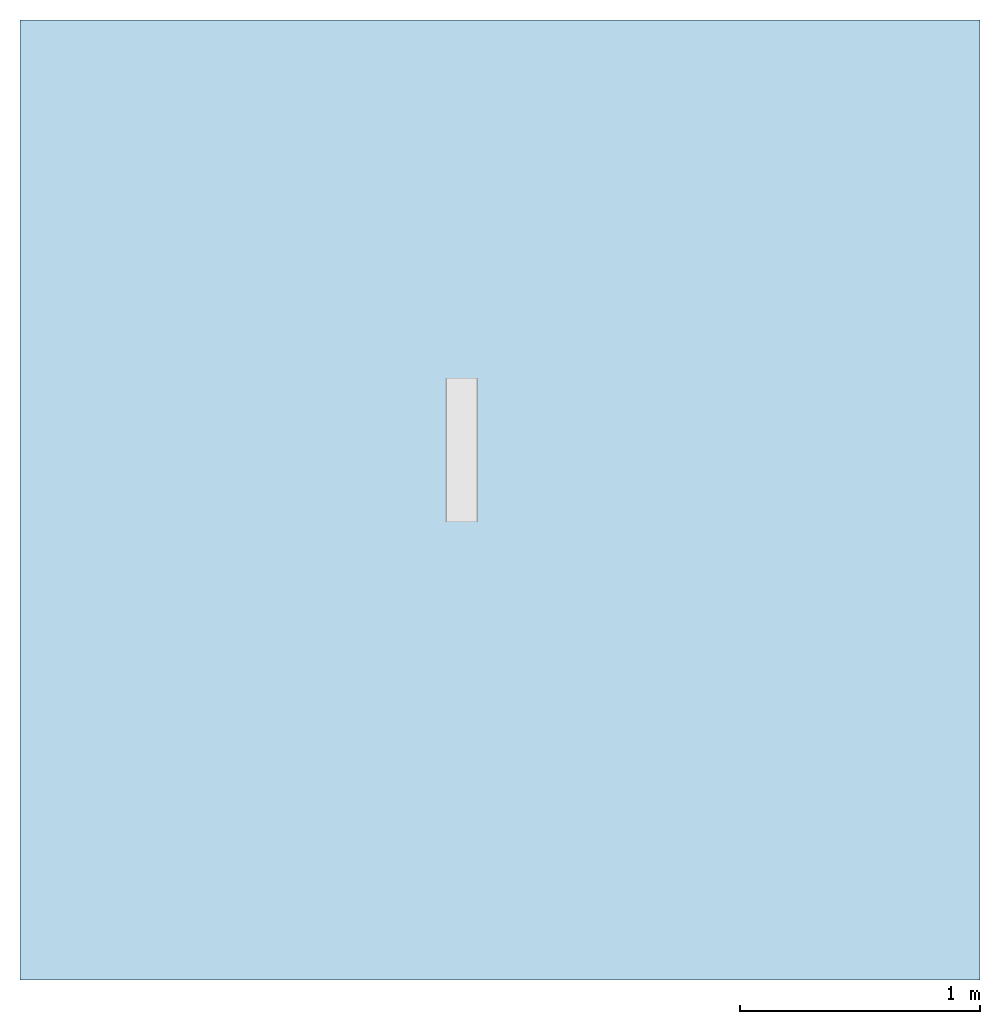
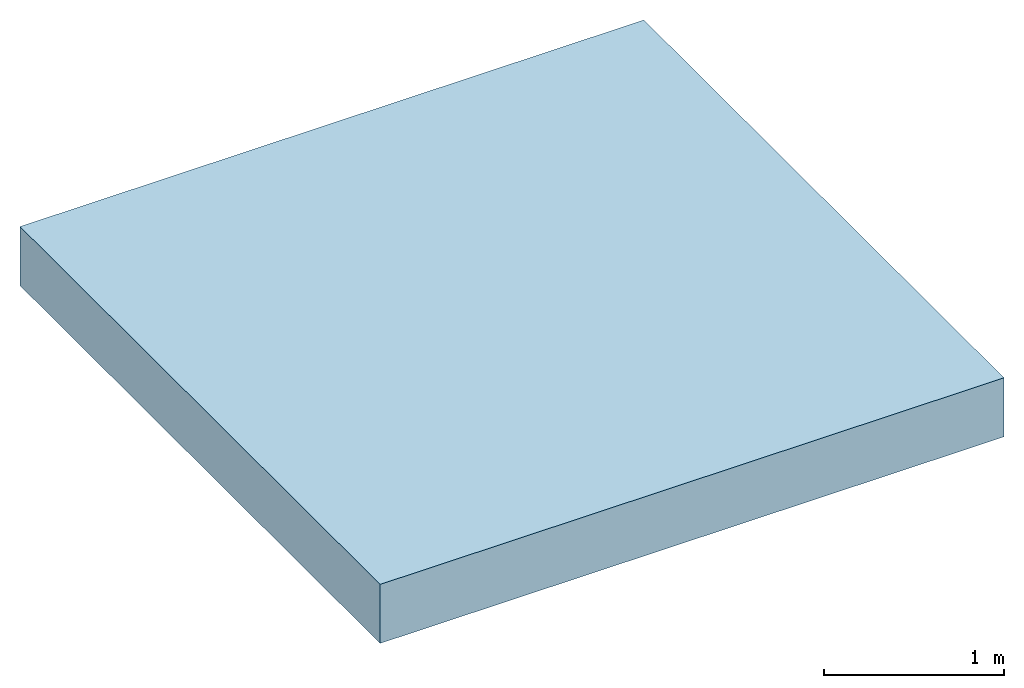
# One storey, incomplete: 1 slab, 2 openings.
"""IFC2X3 building model written with IfcOpenShell, lengths in millimetres."""

from ifc_helpers import new_model, entity, si_unit, converted_unit, derived_unit, direction, frame, frame_2d, origin, place, context, subcontext, project, spatial, polyline, rectangle, outline, extrude, faceted_brep, material, layer, layer_set, layer_usage, element, save


model = new_model("IFC2X3")

# Units and contexts
model_context = context("Model", 3, precision=1e-05, world=origin(), true_north=direction((2.0, 6.12303176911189e-17, 1.0)))
context_of_model = context(None, 3, precision=1e-05, world=origin(), true_north=direction((2.0, 6.12303176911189e-17, 1.0)))
body_context = subcontext(model_context, "Body", "Model", "MODEL_VIEW")
ifc_project = project(units=[si_unit("LENGTHUNIT", "METRE", prefix="MILLI"), si_unit("AREAUNIT", "SQUARE_METRE"), si_unit("VOLUMEUNIT", "CUBIC_METRE"), converted_unit("PLANEANGLEUNIT", "DEGREE", entity("IfcRatioMeasure", 0.0174532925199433), si_unit("PLANEANGLEUNIT", "RADIAN"), dimensions=[0, 0, 0, 0, 0, 0, 0]), si_unit("MASSUNIT", "GRAM", prefix="KILO"), si_unit("TIMEUNIT", "SECOND"), si_unit("THERMODYNAMICTEMPERATUREUNIT", "KELVIN"), derived_unit("THERMALTRANSMITTANCEUNIT", [(si_unit("MASSUNIT", "GRAM", prefix="KILO"), 1), (si_unit("THERMODYNAMICTEMPERATUREUNIT", "KELVIN"), -1), (si_unit("TIMEUNIT", "SECOND"), -3)]), derived_unit("VOLUMETRICFLOWRATEUNIT", [(si_unit("LENGTHUNIT", "METRE"), 3), (si_unit("TIMEUNIT", "SECOND"), -1)]), si_unit("POWERUNIT", "WATT")], contexts=[model_context, context_of_model])

# Site, building, storey
site_placement = place(None, origin())
site = spatial("IfcSite", under=ifc_project, at=site_placement, Name="Default", CompositionType="ELEMENT")
building_placement = place(site_placement, origin())
building = spatial("IfcBuilding", under=site, at=building_placement, CompositionType="ELEMENT")
storey_placement = place(building_placement, origin())
storey = spatial("IfcBuildingStorey", under=building, at=storey_placement, Name="Level 1", CompositionType="ELEMENT", Elevation=0.0)

# Slab, openings
ifc_material = material(Name="Concrete, Broom Finish")
ifc_layer = layer(ifc_material, 400.0)
ifc_layer_set = layer_set([ifc_layer], Name="Floor:Generic Floor - 400mm")
ifc_layer_usage = layer_usage(ifc_layer_set, "AXIS3", "POSITIVE", 0.0)
slab_placement = place(storey_placement, origin())
slab = element("IfcSlab", 1, at=slab_placement, inside=storey, material=ifc_layer_usage, Name="Floor:Generic Floor - 400mm", ObjectType="Floor:Generic Floor - 400mm", PredefinedType="FLOOR", context=body_context, shape_type="SweptSolid", body=[
    extrude(rectangle(XDim=4000.0, YDim=4000.0, at=frame_2d((0.0, 0.0), x_axis=(0.0, -1.0))), frame((-42.176138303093, 2.05004766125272, 0.0), z_axis=(0.0, 0.0, -1.0), x_axis=(-1.0, 0.0, 0.0)), (0.0, 0.0, 1.0), 400.0),
])
opening_1_placement = place(slab_placement, frame((-201.687791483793, -390.149030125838, -5053.0)))
element("IfcOpeningElement", 2, at=opening_1_placement, cuts=slab, ObjectType="Recess", context=body_context, shape_type="Brep", body=[
    faceted_brep([(302.223121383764, 175.255521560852, 32.0), (300.076475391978, 298.23678806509, 32.0), (134.144907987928, 172.321705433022, 32.0), (295.712509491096, 298.160614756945, 32.0), (130.0, 0.0, 32.0), (130.0, 168.103816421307, 32.0), (7.0, 0.0, 32.0), (7.0, 168.103816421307, 32.0), (7.0, 163.739186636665, 32.0), (131.985921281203, 296.009971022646, 32.2928932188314), (131.980809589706, 296.302819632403, 33.0), (131.998261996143, 295.302971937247, 32.0), (134.144907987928, 172.321705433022, 53.0), (131.980809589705, 296.302819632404, 53.0), (302.223121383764, 175.255521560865, 0.0), (130.0, 172.249355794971, 0.0), (130.0, 172.249355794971, 53.0), (299.954308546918, 305.235721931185, 0.0), (0.0, 300.0, 0.0), (0.0, 0.0, 0.0), (130.0, 0.0, 0.0), (300.059022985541, 299.236635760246, 53.0), (299.954308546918, 305.235721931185, 53.0), (6.0, 168.103816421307, 53.0), (0.0, 300.0, 53.0), (0.0, 0.0, 53.0), (130.0, 168.103816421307, 53.0), (6.0, 0.0, 53.0), (6.0, 168.103816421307, 33.0), (6.29289321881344, 168.103816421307, 32.2928932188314), (300.064134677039, 298.943787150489, 32.2928932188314), (300.059022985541, 299.236635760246, 33.0), (140.708741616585, 296.455166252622, 33.0), (6.29289321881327, 0.0, 32.2928932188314), (6.0, 0.0, 33.0), (6.0, 8.72926165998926, 33.0), (272.002592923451, 298.455351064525, 32.2942756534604), (273.814254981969, 297.778379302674, 32.0), (278.570212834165, 298.608297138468, 32.3349384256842), (254.007759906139, 298.108651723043, 32.2630003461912), (259.896197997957, 298.278651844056, 32.3308195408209), (257.072565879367, 298.486304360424, 33.0), (139.318735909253, 296.137965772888, 32.2928932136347), (237.04714554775, 297.136607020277, 32.0), (239.661490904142, 297.8628028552, 32.2672134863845), (233.480216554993, 297.72760765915, 32.2427819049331), (286.608060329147, 298.675556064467, 32.2610474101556), (284.319142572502, 297.96174279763, 32.0), (145.077818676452, 296.23849093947, 32.2928932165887), (149.436673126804, 296.607512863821, 33.0), (184.522704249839, 296.219789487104, 32.0), (188.717372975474, 297.006176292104, 32.2988969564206), (183.037761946, 296.891114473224, 32.2830635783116), (155.595048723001, 295.714855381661, 32.0), (158.653902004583, 296.433410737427, 32.2532114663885), (150.836901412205, 296.339016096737, 32.292893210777), (202.894368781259, 297.221785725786, 32.2679155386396), (205.532480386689, 296.5865164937, 32.0), (208.146067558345, 297.235275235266, 32.2022940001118), (189.775148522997, 296.311471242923, 32.0), (194.399132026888, 297.105407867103, 32.2989540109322), (149.454126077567, 295.607665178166, 32.0), (223.302679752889, 297.599503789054, 32.2885139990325), (220.22703077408, 297.843163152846, 33.0), (213.399313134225, 297.401935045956, 32.2649373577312), (287.777178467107, 299.022255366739, 33.0), (292.629707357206, 298.814018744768, 32.2928932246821), (175.620467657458, 297.064552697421, 33.0), (166.89253614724, 296.912206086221, 33.0), (171.260361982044, 296.767235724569, 32.3727558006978), (250.93164336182, 298.379114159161, 33.0), (248.078971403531, 298.070514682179, 32.3287527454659), (279.066698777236, 297.870061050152, 32.0), (275.495333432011, 298.807874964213, 33.0), (238.649798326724, 298.164733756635, 33.0), (295.695057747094, 299.160462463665, 33.0), (140.726194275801, 295.455318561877, 32.0), (289.571586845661, 298.05342455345, 32.0), (281.636255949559, 298.915065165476, 33.0), (161.735970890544, 295.822045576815, 32.0), (164.835769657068, 296.558810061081, 32.2691642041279), (184.348399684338, 297.216899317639, 33.0), (193.076331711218, 297.369245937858, 33.0), (268.56181070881, 297.686697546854, 32.0), (265.811608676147, 298.342461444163, 32.2894648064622), (269.354410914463, 298.70068476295, 33.0), (258.056922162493, 297.503334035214, 32.0), (263.309366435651, 297.595015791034, 32.0), (247.552033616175, 297.319970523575, 32.0), (252.804477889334, 297.411652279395, 32.0), (263.213488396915, 298.593494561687, 33.0), (242.299589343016, 297.228288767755, 32.0), (244.790720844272, 298.271923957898, 33.0), (232.508875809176, 298.057543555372, 33.0), (226.367953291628, 297.950353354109, 33.0), (228.441030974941, 297.769059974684, 32.3774173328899), (231.794701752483, 297.044925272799, 32.0), (226.542257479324, 296.953243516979, 32.0), (158.164604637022, 296.759859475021, 33.0), (167.876893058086, 295.929235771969, 32.0), (177.362507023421, 296.764390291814, 32.2571703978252), (174.017815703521, 296.036425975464, 32.0), (179.27025997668, 296.128107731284, 32.0), (207.945185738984, 297.62878275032, 33.0), (201.804263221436, 297.521592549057, 33.0), (195.027592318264, 296.403152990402, 32.0), (200.28003611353, 296.49483473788, 32.0), (214.086108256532, 297.735972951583, 33.0), (210.784924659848, 296.678198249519, 32.0), (216.037368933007, 296.769880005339, 32.0), (221.289813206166, 296.861561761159, 32.0), (6.29151349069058, 140.038024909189, 32.2942756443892), (7.0, 141.837591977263, 32.0), (6.25321148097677, 146.607313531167, 32.3349384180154), (6.3241068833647, 122.039881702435, 32.2630003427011), (6.25690008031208, 127.930390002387, 32.3308195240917), (6.0, 125.110810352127, 33.0), (6.29289321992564, 7.33393164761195, 32.2928932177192), (7.0, 105.064883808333, 32.0), (6.31954136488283, 107.691507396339, 32.2672135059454), (6.34683785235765, 101.50881504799, 32.2427819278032), (6.32624258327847, 154.645110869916, 32.2610474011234), (7.0, 152.34408268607, 32.0), (6.29289321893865, 13.0938916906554, 32.2928932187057), (6.0, 17.4585233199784, 33.0), (7.0, 52.5324419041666, 32.0), (6.28693999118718, 56.7401973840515, 32.2988969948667), (6.30286143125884, 51.0594432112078, 32.283063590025), (7.0, 23.600380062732, 32.0), (6.33493842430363, 26.6713092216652, 32.2532114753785), (6.29289322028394, 18.8538517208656, 32.2928932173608), (6.31878609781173, 70.9187975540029, 32.2679155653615), (7.0, 73.5454186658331, 32.0), (6.39695342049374, 76.1699319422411, 32.2022940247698), (7.0, 57.7856849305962, 32.0), (6.28688391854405, 62.4228229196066, 32.2989540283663), (7.0, 17.4585214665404, 32.0), (6.29729972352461, 91.3305919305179, 32.2885140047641), (6.0, 88.2596644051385, 33.0), (6.32200078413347, 81.4252860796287, 32.2649373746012), (6.0, 155.820101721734, 33.0), (6.29289322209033, 160.668256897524, 32.2928932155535), (6.0, 43.6463046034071, 33.0), (6.0, 34.9170447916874, 33.0), (6.22117733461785, 39.2816751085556, 32.3727558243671), (6.0, 118.968952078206, 33.0), (6.25876647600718, 116.111330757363, 32.3287527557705), (7.0, 147.090837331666, 32.0), (6.0, 143.536385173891, 33.0), (6.0, 106.685235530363, 33.0), (6.0, 163.739185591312, 33.0), (7.0, 8.72925956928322, 32.0), (7.0, 157.597328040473, 32.0), (6.0, 149.678243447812, 33.0), (7.0, 29.7422363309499, 32.0), (6.31744666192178, 32.8544238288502, 32.2691642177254), (6.0, 52.3755662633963, 33.0), (6.0, 61.1048279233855, 33.0), (7.0, 136.584348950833, 32.0), (6.29633832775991, 133.846013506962, 32.2894648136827), (6.0, 137.39452689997, 33.0), (7.0, 126.07786057, 32.0), (7.0, 131.331105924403, 32.0), (7.0, 115.571372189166, 32.0), (7.0, 120.824615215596, 32.0), (6.0, 131.252668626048, 33.0), (7.0, 110.318129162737, 32.0), (6.0, 112.827093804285, 33.0), (6.0, 100.543377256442, 33.0), (6.0, 94.4015208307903, 33.0), (6.21744596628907, 96.471120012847, 32.3774173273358), (7.0, 99.8116384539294, 32.0), (7.0, 94.5583954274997, 32.0), (6.0, 26.1877849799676, 33.0), (7.0, 35.8840949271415, 32.0), (6.3305194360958, 45.3828409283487, 32.2571704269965), (7.0, 42.0259535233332, 32.0), (7.0, 47.2791988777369, 32.0), (6.0, 75.9759478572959, 33.0), (6.0, 69.8340895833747, 33.0), (7.0, 63.0389302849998, 32.0), (7.0, 68.2921756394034, 32.0), (6.0, 82.1178061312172, 33.0), (7.0, 78.7986616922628, 32.0), (7.0, 84.0519070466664, 32.0), (7.0, 89.30515240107, 32.0)], [[[0, 1, 2]], [[2, 1, 3]], [[4, 5, 6]], [[5, 7, 8]], [[9, 10, 11]], [[2, 11, 12]], [[10, 13, 11]], [[12, 11, 13]], [[14, 0, 2]], [[14, 2, 15]], [[16, 15, 2]], [[16, 2, 12]], [[17, 14, 15]], [[17, 15, 18]], [[19, 18, 15]], [[19, 15, 20]], [[21, 22, 13]], [[12, 13, 16]], [[16, 13, 23]], [[22, 24, 13]], [[23, 24, 25]], [[23, 26, 16]], [[27, 23, 25]], [[23, 13, 24]], [[7, 28, 29]], [[26, 7, 5]], [[7, 23, 28]], [[23, 7, 26]], [[5, 15, 16]], [[5, 16, 26]], [[5, 4, 20]], [[5, 20, 15]], [[1, 0, 14]], [[30, 1, 17]], [[14, 17, 1]], [[17, 31, 30]], [[31, 22, 21]], [[17, 22, 31]], [[21, 10, 32]], [[13, 10, 21]], [[22, 17, 24]], [[18, 24, 17]], [[20, 4, 6]], [[19, 6, 33]], [[6, 19, 20]], [[33, 34, 19]], [[27, 25, 34]], [[34, 25, 19]], [[28, 23, 27]], [[27, 34, 35]], [[24, 18, 19]], [[19, 25, 24]], [[36, 37, 38]], [[39, 40, 41]], [[42, 32, 10]], [[43, 44, 45]], [[46, 38, 47]], [[32, 48, 49]], [[50, 51, 52]], [[53, 54, 55]], [[56, 57, 58]], [[51, 59, 60]], [[55, 48, 61]], [[42, 48, 32]], [[62, 63, 64]], [[65, 46, 66]], [[67, 68, 69]], [[39, 70, 71]], [[72, 38, 37]], [[38, 73, 36]], [[74, 45, 44]], [[3, 1, 30]], [[30, 31, 75]], [[30, 66, 3]], [[76, 61, 48]], [[9, 11, 42]], [[66, 77, 3]], [[46, 77, 66]], [[66, 75, 65]], [[75, 66, 30]], [[72, 47, 38]], [[78, 38, 46]], [[73, 38, 78]], [[46, 65, 78]], [[54, 79, 80]], [[70, 39, 41]], [[81, 51, 82]], [[83, 36, 84]], [[36, 85, 84]], [[86, 87, 40]], [[86, 40, 39]], [[88, 89, 71]], [[90, 40, 84]], [[43, 91, 44]], [[39, 71, 89]], [[90, 84, 85]], [[36, 73, 85]], [[91, 88, 71]], [[71, 92, 44]], [[93, 45, 74]], [[71, 44, 91]], [[41, 40, 90]], [[62, 94, 63]], [[45, 93, 95]], [[96, 43, 45]], [[95, 62, 97]], [[74, 44, 92]], [[71, 70, 92]], [[40, 87, 84]], [[47, 77, 46]], [[87, 83, 84]], [[55, 49, 48]], [[97, 96, 95]], [[76, 48, 42]], [[80, 98, 54]], [[98, 55, 54]], [[98, 49, 55]], [[79, 54, 53]], [[55, 61, 53]], [[68, 98, 80]], [[80, 69, 68]], [[80, 99, 69]], [[67, 69, 100]], [[60, 82, 51]], [[101, 100, 69]], [[67, 100, 81]], [[101, 69, 99]], [[80, 79, 99]], [[100, 102, 52]], [[76, 42, 11]], [[100, 101, 102]], [[9, 42, 10]], [[64, 103, 58]], [[104, 60, 56]], [[36, 83, 37]], [[52, 102, 50]], [[60, 104, 82]], [[105, 106, 60]], [[106, 56, 60]], [[56, 106, 57]], [[103, 104, 56]], [[107, 103, 64]], [[64, 108, 109]], [[108, 58, 57]], [[63, 107, 64]], [[94, 62, 95]], [[110, 62, 109]], [[64, 109, 62]], [[56, 58, 103]], [[64, 58, 108]], [[110, 97, 62]], [[94, 95, 93]], [[96, 45, 95]], [[52, 81, 100]], [[52, 51, 81]], [[89, 86, 39]], [[105, 60, 59]], [[51, 50, 59]], [[111, 112, 113]], [[114, 115, 116]], [[117, 35, 34]], [[118, 119, 120]], [[121, 113, 122]], [[35, 123, 124]], [[125, 126, 127]], [[128, 129, 130]], [[131, 132, 133]], [[126, 134, 135]], [[130, 123, 136]], [[117, 123, 35]], [[137, 138, 139]], [[140, 121, 141]], [[142, 143, 144]], [[114, 145, 146]], [[147, 113, 112]], [[113, 148, 111]], [[149, 120, 119]], [[8, 7, 29]], [[29, 28, 150]], [[29, 141, 8]], [[151, 136, 123]], [[33, 6, 117]], [[141, 152, 8]], [[121, 152, 141]], [[141, 150, 140]], [[150, 141, 29]], [[147, 122, 113]], [[153, 113, 121]], [[148, 113, 153]], [[121, 140, 153]], [[129, 154, 155]], [[145, 114, 116]], [[156, 126, 157]], [[158, 111, 159]], [[111, 160, 159]], [[161, 162, 115]], [[161, 115, 114]], [[163, 164, 146]], [[165, 115, 159]], [[118, 166, 119]], [[114, 146, 164]], [[165, 159, 160]], [[111, 148, 160]], [[166, 163, 146]], [[146, 167, 119]], [[168, 120, 149]], [[146, 119, 166]], [[116, 115, 165]], [[137, 169, 138]], [[120, 168, 170]], [[171, 118, 120]], [[170, 137, 172]], [[149, 119, 167]], [[146, 145, 167]], [[115, 162, 159]], [[122, 152, 121]], [[162, 158, 159]], [[130, 124, 123]], [[172, 171, 170]], [[151, 123, 117]], [[155, 173, 129]], [[173, 130, 129]], [[173, 124, 130]], [[154, 129, 128]], [[130, 136, 128]], [[143, 173, 155]], [[155, 144, 143]], [[155, 174, 144]], [[142, 144, 175]], [[135, 157, 126]], [[176, 175, 144]], [[142, 175, 156]], [[176, 144, 174]], [[155, 154, 174]], [[175, 177, 127]], [[151, 117, 6]], [[175, 176, 177]], [[33, 117, 34]], [[139, 178, 133]], [[179, 135, 131]], [[111, 158, 112]], [[127, 177, 125]], [[135, 179, 157]], [[180, 181, 135]], [[181, 131, 135]], [[131, 181, 132]], [[178, 179, 131]], [[182, 178, 139]], [[139, 183, 184]], [[183, 133, 132]], [[138, 182, 139]], [[169, 137, 170]], [[185, 137, 184]], [[139, 184, 137]], [[131, 133, 178]], [[139, 133, 183]], [[185, 172, 137]], [[169, 170, 168]], [[171, 120, 170]], [[127, 156, 175]], [[127, 126, 156]], [[164, 161, 114]], [[180, 135, 134]], [[126, 125, 134]], [[2, 3, 77]], [[2, 77, 47]], [[2, 47, 72]], [[2, 72, 37]], [[2, 37, 83]], [[2, 83, 87]], [[2, 87, 86]], [[2, 86, 89]], [[2, 89, 88]], [[2, 88, 91]], [[2, 91, 43]], [[2, 43, 96]], [[2, 96, 97]], [[2, 97, 110]], [[2, 110, 109]], [[2, 109, 108]], [[2, 108, 57]], [[2, 57, 106]], [[2, 106, 105]], [[2, 105, 59]], [[2, 59, 50]], [[2, 50, 102]], [[2, 102, 101]], [[2, 101, 99]], [[2, 99, 79]], [[2, 79, 53]], [[2, 53, 61]], [[2, 61, 76]], [[2, 76, 11]], [[5, 8, 152]], [[5, 152, 122]], [[5, 122, 147]], [[5, 147, 112]], [[5, 112, 158]], [[5, 158, 162]], [[5, 162, 161]], [[5, 161, 164]], [[5, 164, 163]], [[5, 163, 166]], [[5, 166, 118]], [[5, 118, 171]], [[5, 171, 172]], [[5, 172, 185]], [[5, 185, 184]], [[5, 184, 183]], [[5, 183, 132]], [[5, 132, 181]], [[5, 181, 180]], [[5, 180, 134]], [[5, 134, 125]], [[5, 125, 177]], [[5, 177, 176]], [[5, 176, 174]], [[5, 174, 154]], [[5, 154, 128]], [[5, 128, 136]], [[5, 136, 151]], [[5, 151, 6]], [[21, 32, 49]], [[21, 49, 98]], [[21, 98, 68]], [[21, 68, 67]], [[21, 67, 81]], [[21, 81, 82]], [[21, 82, 104]], [[21, 104, 103]], [[21, 103, 107]], [[21, 107, 63]], [[21, 63, 94]], [[21, 94, 93]], [[21, 93, 74]], [[21, 74, 92]], [[21, 92, 70]], [[21, 70, 41]], [[21, 41, 90]], [[21, 90, 85]], [[21, 85, 73]], [[21, 73, 78]], [[21, 78, 65]], [[21, 65, 75]], [[21, 75, 31]], [[27, 35, 124]], [[27, 124, 173]], [[27, 173, 143]], [[27, 143, 142]], [[27, 142, 156]], [[27, 156, 157]], [[27, 157, 179]], [[27, 179, 178]], [[27, 178, 182]], [[27, 182, 138]], [[27, 138, 169]], [[27, 169, 168]], [[27, 168, 149]], [[27, 149, 167]], [[27, 167, 145]], [[27, 145, 116]], [[27, 116, 165]], [[27, 165, 160]], [[27, 160, 148]], [[27, 148, 153]], [[27, 153, 140]], [[27, 140, 150]], [[27, 150, 28]]]),
])
opening_2_placement = place(slab_placement, frame((-201.687791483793, -390.149030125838, -5053.0)))
element("IfcOpeningElement", 3, at=opening_2_placement, cuts=slab, ObjectType="Recess", context=body_context, shape_type="SweptSolid", body=[
    extrude(outline(polyline([(-3.75000000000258, -67.0), (56.2499999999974, -67.0), (56.2499999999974, 67.0), (-3.75000000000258, 67.0), (-3.74999999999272, 65.0), (-48.7500000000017, 65.0), (-48.7499999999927, -65.0), (-3.75000000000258, -65.0), (-3.75000000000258, -67.0)])), frame((-201.687791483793, -90.149030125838, -48.7500000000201), z_axis=(0.0, 1.0, 0.0), x_axis=(0.0, 0.0, -1.0)), (0.0, 0.0, 1.0), 600.0),
])

save(model, "model.ifc")
